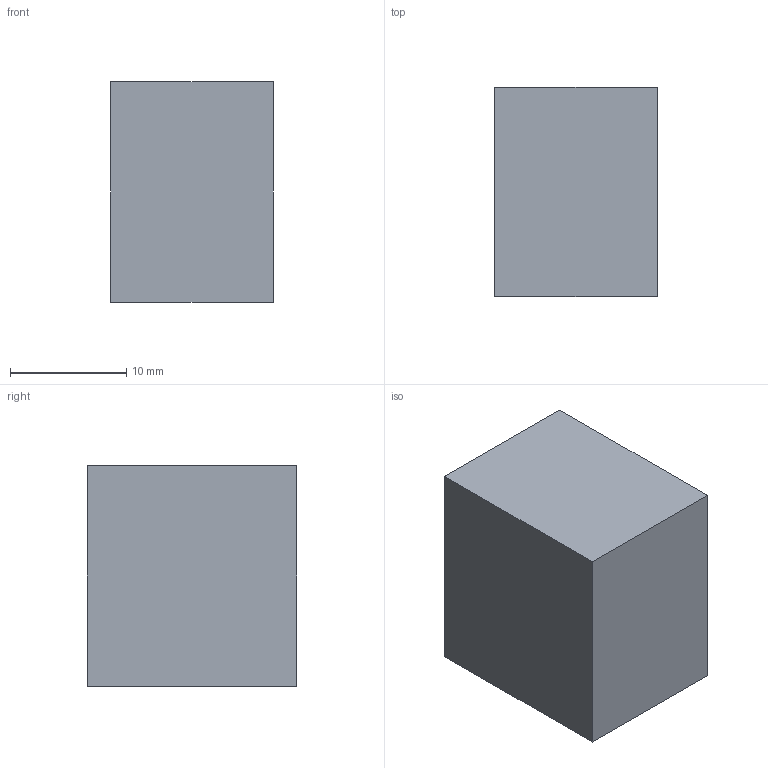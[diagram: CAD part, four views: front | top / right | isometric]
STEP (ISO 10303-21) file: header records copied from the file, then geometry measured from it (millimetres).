
FILE_DESCRIPTION(('Open CASCADE Model'),'2;1');
FILE_NAME('Open CASCADE Shape Model','2026-10-16T20:10:47',('Author'),( 'Open CASCADE'),'Open CASCADE STEP processor 7.9','Open CASCADE 7.9' ,'Unknown');
FILE_SCHEMA(('AUTOMOTIVE_DESIGN { 1 0 10303 214 1 1 1 1 }'));
Length unit declared in the file: millimetre
Products named in the file (1): Open CASCADE STEP translator 7.9 76
Bounding box: 14 x 18 x 19 mm (x, y, z)
Volume: 4788 mm3; surface area: 1720 mm2
Topology: 1 solids, 1 shells, 6 faces, 12 edges, 8 vertices
Faces by surface type: plane 6
Entity records: 322 total; most frequent: CARTESIAN_POINT 51, DIRECTION 50, LINE 36, VECTOR 36, ORIENTED_EDGE 24, PCURVE 24, DEFINITIONAL_REPRESENTATION 24, EDGE_CURVE 12
